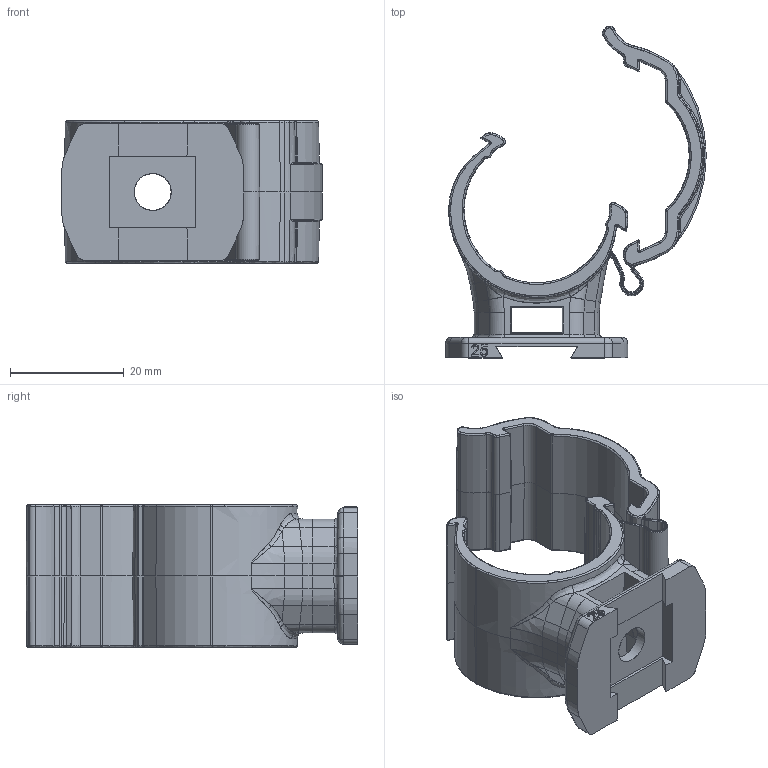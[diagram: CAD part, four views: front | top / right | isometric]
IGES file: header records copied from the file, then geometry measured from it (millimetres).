
Start section: SolidWorks IGES file using analytic representation for surfaces
Global section: file name: C:\Users\Cad02\Desktop\908150059J400 ø25_definitivo.IGS; native system: SolidWorks 2012; preprocessor: SolidWorks 2012; author: cad02; date: 130225.094101; units: millimetre
Bounding box: 45.8 x 58.32 x 25 mm (x, y, z)
Surface area: 9706 mm2 (no closed solid volume)
Topology: 0 solids, 0 shells, 710 faces, 4733 edges, 4719 vertices
Faces by surface type: bspline 463, revolution 247
